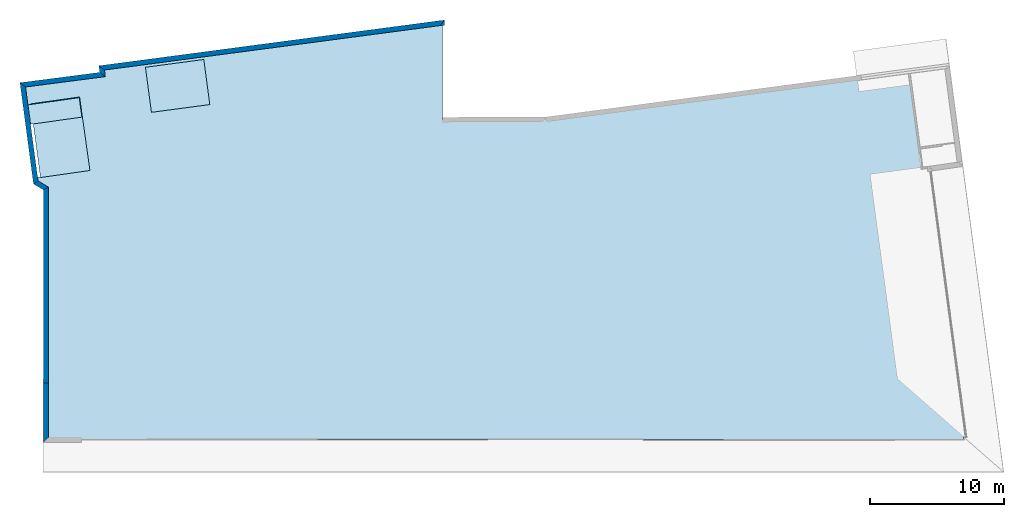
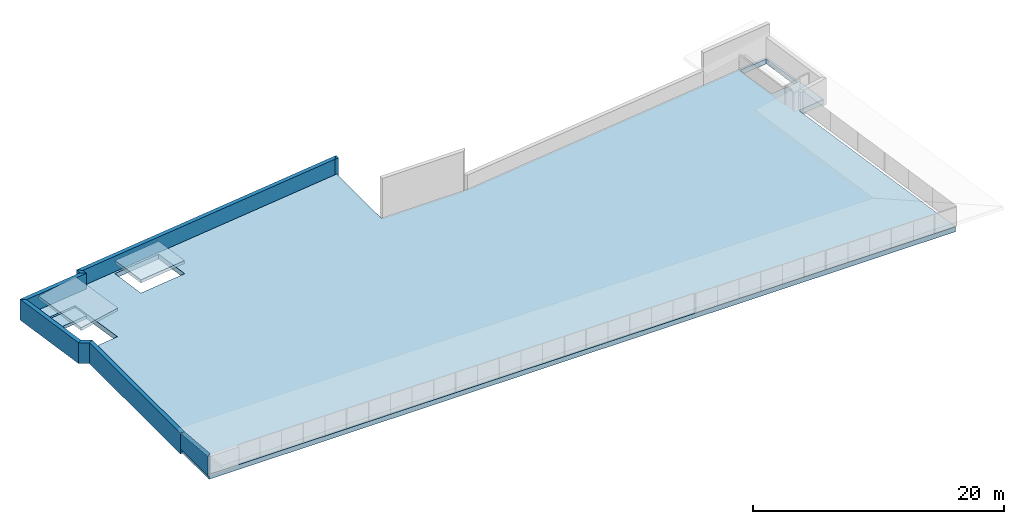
# One storey, part 1 of 7: 8 walls, 4 slabs, 3 openings.
"""IFC2X3 building model written with IfcOpenShell, lengths in metres."""

from ifc_helpers import new_model, entity, si_unit, converted_unit, money_unit, direction, frame, origin_with_axes, place, context, subcontext, project, spatial, polyline, outline, extrude, clip, bounded_halfspace, material, layer, layer_set, layer_usage, type_object, element, save


model = new_model("IFC2X3")

# Units and contexts
model_context = context("Model", 3, precision=1e-05, world=origin_with_axes(), true_north=direction((0.0, 1.0)))
body_context = subcontext(model_context, "Body", "Model", "MODEL_VIEW")
ifc_project = project(units=[si_unit("LENGTHUNIT", "METRE"), si_unit("AREAUNIT", "SQUARE_METRE"), si_unit("VOLUMEUNIT", "CUBIC_METRE"), converted_unit("PLANEANGLEUNIT", "DEGREE", entity("IfcPlaneAngleMeasure", 0.0174532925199), si_unit("PLANEANGLEUNIT", "RADIAN"), dimensions=[0, 0, 0, 0, 0, 0, 0]), si_unit("SOLIDANGLEUNIT", "STERADIAN"), money_unit("EUR"), converted_unit("TIMEUNIT", "Year", entity("IfcTimeMeasure", 31556926.0), si_unit("TIMEUNIT", "SECOND"), dimensions=[0, 0, 0, 0, 0, 0, 0]), si_unit("MASSUNIT", "GRAM"), si_unit("THERMODYNAMICTEMPERATUREUNIT", "DEGREE_CELSIUS"), si_unit("LUMINOUSINTENSITYUNIT", "LUMEN")], contexts=[model_context])

# Site, building, storey
site_placement = place(None, origin_with_axes())
site = spatial("IfcSite", under=ifc_project, at=site_placement, Name="Undefined", CompositionType="ELEMENT")
building_placement = place(site_placement, origin_with_axes())
building = spatial("IfcBuilding", under=site, at=building_placement, Name="Undefined", CompositionType="ELEMENT")
storey_placement = place(building_placement, frame((0.0, 0.0, 17.4), z_axis=(0.0, 0.0, 1.0), x_axis=(1.0, 0.0, 0.0)))
storey = spatial("IfcBuildingStorey", under=building, at=storey_placement, Name="Toiture", CompositionType="ELEMENT", Elevation=17.4)

# Slab
ifc_material_1 = material(Name="Struct. - B\x8eton cellulaire")
ifc_layer_1 = layer(ifc_material_1, 0.3, ventilated="UNKNOWN")
ifc_layer_set_1 = layer_set([ifc_layer_1], Name="Struct. - B\x8eton cellulaire 0.3")
ifc_layer_usage_1 = layer_usage(ifc_layer_set_1, "AXIS3", "NEGATIVE", 0.3)
slab_type_1 = type_object("IfcSlabType", Name="Struct. - B\x8eton cellulaire 300", PredefinedType="FLOOR")
slab_1_placement = place(storey_placement, frame((7.25119225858, 27.6117107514, 1.0), z_axis=(0.0, 0.0, 1.0), x_axis=(1.0, 0.0, 0.0)))
element("IfcSlab", 1, at=slab_1_placement, inside=storey, type_object=slab_type_1, material=ifc_layer_usage_1, Name="SLAB", ObjectType="200*30749", PredefinedType="FLOOR", context=body_context, shape_type="SweptSolid", body=[
    extrude(outline(polyline([(0.0, 0.0), (0.449671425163, -3.37013287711), (4.81101985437, -2.78820515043), (4.3613484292, 0.581927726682), (0.0, 0.0)])), origin_with_axes(), (0.0, 0.0, 1.0), 0.3),
])

# Slab, openings
ifc_material_2 = material(Name="Env. - Gravier")
ifc_layer_2 = layer(ifc_material_2, 0.1, ventilated="UNKNOWN")
ifc_material_3 = material(Name="Etanch\x8eit\x8e - Fondation")
ifc_layer_3 = layer(ifc_material_3, 0.005, ventilated="UNKNOWN")
ifc_material_4 = material(Name="Isolation Int. - Polyur\x8ethane")
ifc_layer_4 = layer(ifc_material_4, 0.16, ventilated="UNKNOWN")
ifc_material_5 = material(Name="Struct. - B.A. coul\x8e")
ifc_layer_5 = layer(ifc_material_5, 0.2, ventilated="UNKNOWN")
ifc_material_6 = material(Name="Finition int - Enduit pl\x89tre")
ifc_layer_6 = layer(ifc_material_6, 0.01, ventilated="UNKNOWN")
ifc_layer_set_2 = layer_set([ifc_layer_2, ifc_layer_3, ifc_layer_4, ifc_layer_5, ifc_layer_6], Name="7.5-Terrasse: B\x8eton + \x8etanch. + isol + gravier")
ifc_layer_usage_2 = layer_usage(ifc_layer_set_2, "AXIS3", "NEGATIVE", 0.475)
slab_type_2 = type_object("IfcSlabType", Name="200*28424", PredefinedType="NOTDEFINED")
slab_2_placement = place(storey_placement, frame((-1.93106549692, 26.3060488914, 0.025), z_axis=(0.0, 0.0, 1.0), x_axis=(1.0, 0.0, 0.0)))
slab_2 = element("IfcSlab", 2, at=slab_2_placement, inside=storey, type_object=slab_type_2, material=ifc_layer_usage_2, Name="SLAB", ObjectType="200*30749", PredefinedType="FLOOR", context=body_context, shape_type="SweptSolid", body=[
    extrude(outline(polyline([(0.0, 0.0), (0.975686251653, -7.31239883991), (1.73606549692, -7.76460232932), (1.73606549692, -26.5684768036), (70.3609509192, -26.5138029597), (67.6237696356, -6.31905179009), (67.9959923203, -6.26534502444), (67.9957745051, -6.26383542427), (70.0856348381, -5.96229646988), (69.1108208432, 1.39871776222), (39.2544348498, -2.56877334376), (31.3762609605, -2.61090102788), (31.3762609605, 4.66629999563), (5.899068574, 1.26691680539), (5.96519698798, 0.771309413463), (0.0, 0.0)])), frame((0.0, 0.0, -0.475), z_axis=(0.0, 0.0, 1.0), x_axis=(1.0, 0.0, 0.0)), (0.0, 0.0, 1.0), 0.475),
])
opening_1_placement = place(slab_2_placement, origin_with_axes())
element("IfcOpeningElement", 3, at=opening_1_placement, cuts=slab_2, Name="Slab Opening", context=body_context, shape_type="SweptSolid", body=[
    extrude(outline(polyline([(1.10167673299, -6.91985936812), (4.98785969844, -6.37369150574), (4.22803964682, -0.967295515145), (0.397624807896, -1.50562567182), (1.10167673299, -6.91985936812)])), frame((0.0, 0.0, -0.475), z_axis=(0.0, 0.0, 1.0), x_axis=(1.0, 0.0, 0.0)), (0.0, 0.0, 1.0), 0.475),
])
opening_2_placement = place(slab_2_placement, origin_with_axes())
element("IfcOpeningElement", 4, at=opening_2_placement, cuts=slab_2, Name="Slab Opening", context=body_context, shape_type="SweptSolid", body=[
    extrude(outline(polyline([(9.1822577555, 1.30566185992), (9.63192918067, -2.06447101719), (13.9932776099, -1.48254329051), (13.5436061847, 1.8875895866), (9.1822577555, 1.30566185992)])), frame((0.0, 0.0, -0.475), z_axis=(0.0, 0.0, 1.0), x_axis=(1.0, 0.0, 0.0)), (0.0, 0.0, 1.0), 0.475),
])
opening_3_placement = place(slab_2_placement, origin_with_axes())
element("IfcOpeningElement", 5, at=opening_3_placement, cuts=slab_2, Name="Slab Opening", context=body_context, shape_type="SweptSolid", body=[
    extrude(outline(polyline([(66.904922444, -3.19686449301), (69.4830926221, -2.86065245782), (68.9431202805, 1.17971854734), (66.3409550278, 0.833927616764), (66.904922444, -3.19686449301)])), frame((0.0, 0.0, -0.475), z_axis=(0.0, 0.0, 1.0), x_axis=(1.0, 0.0, 0.0)), (0.0, 0.0, 1.0), 0.475),
])

# Slabs
ifc_material_7 = material(Name="Air Space 327273935")
ifc_layer_7 = layer(ifc_material_7, 0.03, ventilated="UNKNOWN")
ifc_material_8 = material(Name="Insulation 335336044")
ifc_layer_8 = layer(ifc_material_8, 0.04, ventilated="UNKNOWN")
ifc_material_9 = material(Name="Foreground 335336044")
ifc_layer_9 = layer(ifc_material_9, 0.001, ventilated="UNKNOWN")
ifc_material_10 = material(Name="Wood 335336044")
ifc_layer_10 = layer(ifc_material_10, 0.02, ventilated="UNKNOWN")
ifc_material_11 = material(Name="Air Space 355482495")
ifc_layer_11 = layer(ifc_material_11, 0.18, ventilated="UNKNOWN")
ifc_layer_set_3 = layer_set([ifc_layer_7, ifc_layer_8, ifc_layer_9, ifc_layer_10, ifc_layer_11], Name="roof, aluminium 0259058706")
ifc_layer_usage_3 = layer_usage(ifc_layer_set_3, "AXIS3", "NEGATIVE", 0.271)
slab_type_3 = type_object("IfcSlabType", Name="roof, aluminium 0259058706 271", PredefinedType="ROOF")
slab_3_placement = place(storey_placement, frame((-1.59807508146, 24.9392908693, 2.2114084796), z_axis=(0.0, 0.0, 1.0), x_axis=(0.136065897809, -0.990699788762, 0.0)))
element("IfcSlab", 6, at=slab_3_placement, inside=storey, type_object=slab_type_3, material=ifc_layer_usage_3, Name="Roof01", PredefinedType="ROOF", context=body_context, shape_type="SweptSolid", body=[
    extrude(outline(polyline([(0.0992106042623, 0.252744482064), (5.65426393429, 0.229904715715), (5.63773414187, 3.98364101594), (0.0876110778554, 3.96616276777), (0.0992106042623, 0.252744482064)])), frame((0.0, 0.0, 0.0), z_axis=(0.0, -0.0871557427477, 0.996194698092), x_axis=(1.0, 0.0, 0.0)), (0.0, 0.0871557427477, 0.996194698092), 0.272035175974),
])
ifc_material_12 = material(Name="Struct. - Chape")
ifc_layer_12 = layer(ifc_material_12, 0.06, ventilated="UNKNOWN")
ifc_layer_13 = layer(ifc_material_4, 0.06, ventilated="UNKNOWN")
ifc_layer_14 = layer(ifc_material_5, 0.18, ventilated="UNKNOWN")
ifc_layer_set_4 = layer_set([ifc_layer_12, ifc_layer_13, ifc_layer_14], Name="5.0-Dalle & Chape (Simplifi\x8e)")
ifc_layer_usage_4 = layer_usage(ifc_layer_set_4, "AXIS3", "NEGATIVE", 0.3)
slab_type_4 = type_object("IfcSlabType", Name="5.0-Dalle & Chape (Simplifi\x8e) 300", PredefinedType="FLOOR")
slab_4_placement = place(storey_placement, frame((-1.53344068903, 24.8004232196, -0.14), z_axis=(0.0, 0.0, 1.0), x_axis=(1.0, 0.0, 0.0)))
element("IfcSlab", 7, at=slab_4_placement, inside=storey, type_object=slab_type_4, material=ifc_layer_usage_4, Name="SLAB", ObjectType="200*30749", PredefinedType="FLOOR", context=body_context, shape_type="SweptSolid", body=[
    extrude(outline(polyline([(0.0, 0.0), (0.204226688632, -1.45314716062), (4.03464152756, -0.914817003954), (3.83041483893, 0.53833015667), (0.0, 0.0)])), frame((0.0, 0.0, -0.3), z_axis=(0.0, 0.0, 1.0), x_axis=(1.0, 0.0, 0.0)), (0.0, 0.0, 1.0), 0.3),
])

# Walls
ifc_material_13 = material(Name="Finition ext - Cr\x8epis")
ifc_layer_15 = layer(ifc_material_13, 0.015, ventilated="UNKNOWN")
ifc_material_14 = material(Name="Isolation - Fibres de bois")
ifc_layer_16 = layer(ifc_material_14, 0.16, ventilated="UNKNOWN")
ifc_material_15 = material(Name="Struct. - B.A. banch\x8e")
ifc_layer_17 = layer(ifc_material_15, 0.18, ventilated="UNKNOWN")
ifc_layer_18 = layer(ifc_material_6, 0.015, ventilated="UNKNOWN")
ifc_layer_set_5 = layer_set([ifc_layer_15, ifc_layer_16, ifc_layer_17, ifc_layer_18], Name="1.2-Mur ext: rev\x8et ext + isol ext + ma\x8donnerie + enduit")
ifc_layer_usage_5 = layer_usage(ifc_layer_set_5, "AXIS2", "POSITIVE", 0.0)
wall_type = type_object("IfcWallType", Name="1.2-Mur ext: rev\x8et ext + isol ext + ma\x8donnerie + enduit 370", PredefinedType="NOTDEFINED")
wall_1_placement = place(storey_placement, frame((-0.37, 3.99235607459, 0.0), z_axis=(0.0, 0.0, 1.0), x_axis=(0.0, -1.0, 0.0)))
element("IfcWallStandardCase", 8, at=wall_1_placement, inside=storey, type_object=wall_type, material=ifc_layer_usage_5, Name="WallEx_09", ObjectType="WALL", context=body_context, shape_type="Clipping", body=[
    clip(clip(clip(clip(extrude(outline(polyline([(0.0, 0.0), (4.42995601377, 0.0), (4.05959054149, 0.37), (0.0, 0.37), (0.0, 0.0)])), origin_with_axes(), (0.0, 0.0, 1.0), 3.302), bounded_halfspace(frame((0.000267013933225, 0.0, 1.52987712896), z_axis=(-0.000174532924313, 0.0, -0.999999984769), x_axis=(0.0, 1.0, 0.0)), True, origin_with_axes(), polyline([(-22.6191009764, -0.01), (0.0118085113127, -0.01), (0.0118085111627, 0.38), (-22.6191009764, 0.38), (-22.6191009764, -0.01)]))), bounded_halfspace(frame((0.000267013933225, 0.0, 1.52987712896), z_axis=(-0.000174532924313, 0.0, -0.999999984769), x_axis=(0.0, 1.0, 0.0)), True, origin_with_axes(), polyline([(-22.6191009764, -0.01), (0.0118085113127, -0.01), (0.0118085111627, 0.38), (-22.6191009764, 0.38), (-22.6191009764, -0.01)]))), bounded_halfspace(frame((-0.132740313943, 0.0, 1.51722873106), z_axis=(0.0871557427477, 0.0, -0.996194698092), x_axis=(0.0, 1.0, 0.0)), True, origin_with_axes(), polyline([(0.0118085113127, -0.01), (6.66598421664, -0.01), (6.66598421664, 0.38), (0.0118085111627, 0.38), (0.0118085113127, -0.01)]))), bounded_halfspace(frame((-0.132740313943, 0.0, 1.51722873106), z_axis=(0.0871557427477, 0.0, -0.996194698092), x_axis=(0.0, 1.0, 0.0)), True, origin_with_axes(), polyline([(0.0118085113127, -0.01), (6.66598421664, -0.01), (6.66598421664, 0.38), (0.0118085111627, 0.38), (0.0118085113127, -0.01)]))),
])
ifc_layer_usage_6 = layer_usage(ifc_layer_set_5, "AXIS2", "POSITIVE", 0.0)
wall_2_placement = place(storey_placement, frame((29.6202598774, 31.1461094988, -0.5), z_axis=(0.0, 0.0, 1.0), x_axis=(-0.991347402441, -0.131264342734, 0.0)))
element("IfcWallStandardCase", 9, at=wall_2_placement, inside=storey, type_object=wall_type, material=ifc_layer_usage_6, Name="WallEx_09", ObjectType="WALL", context=body_context, shape_type="SweptSolid", body=[
    extrude(outline(polyline([(0.0, 0.0), (26.0743044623, 0.0), (25.7039348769, 0.37), (0.417235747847, 0.37), (0.0, 0.0)])), origin_with_axes(), (0.0, 0.0, 1.0), 2.03113952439),
])
ifc_layer_usage_7 = layer_usage(ifc_layer_set_5, "AXIS2", "POSITIVE", 0.0)
wall_3_placement = place(storey_placement, frame((3.77156587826, 27.7234830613, -0.5), z_axis=(0.0, 0.0, 1.0), x_axis=(0.132254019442, -0.991215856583, 0.0)))
element("IfcWallStandardCase", 10, at=wall_3_placement, inside=storey, type_object=wall_type, material=ifc_layer_usage_7, Name="WallEx02", ObjectType="WALL", context=body_context, shape_type="SweptSolid", body=[
    extrude(outline(polyline([(0.0, 0.0), (0.498901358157, 0.0), (0.87036876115, 0.37), (0.37036958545, 0.37), (0.0, 0.0)])), origin_with_axes(), (0.0, 0.0, 1.0), 2.0311),
])
ifc_layer_usage_8 = layer_usage(ifc_layer_set_5, "AXIS2", "POSITIVE", 0.0)
wall_4_placement = place(storey_placement, frame((3.83754758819, 27.2289641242, -0.5), z_axis=(0.0, 0.0, 1.0), x_axis=(-0.991731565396, -0.128329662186, 0.0)))
element("IfcWallStandardCase", 11, at=wall_4_placement, inside=storey, type_object=wall_type, material=ifc_layer_usage_8, Name="WallEx_09", ObjectType="WALL", context=body_context, shape_type="SweptSolid", body=[
    extrude(outline(polyline([(0.0, 0.0), (6.01504764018, 0.0), (5.6435791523, 0.37), (-0.371467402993, 0.37), (0.0, 0.0)])), origin_with_axes(), (0.0, 0.0, 1.0), 2.0311),
])
ifc_layer_usage_9 = layer_usage(ifc_layer_set_5, "AXIS2", "POSITIVE", 0.0)
wall_5_placement = place(storey_placement, frame((-1.11763836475, 18.886538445, -0.5), z_axis=(0.0, 0.0, 1.0), x_axis=(0.859493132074, -0.51114729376, 0.0)))
element("IfcWallStandardCase", 12, at=wall_5_placement, inside=storey, type_object=wall_type, material=ifc_layer_usage_9, Name="WallEx", ObjectType="WALL", context=body_context, shape_type="SweptSolid", body=[
    extrude(outline(polyline([(0.0, 0.0), (0.869859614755, 0.0), (1.0803039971, 0.37), (0.179102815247, 0.37), (0.0, 0.0)])), origin_with_axes(), (0.0, 0.0, 1.0), 2.03113952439),
])
ifc_layer_usage_10 = layer_usage(ifc_layer_set_5, "AXIS2", "POSITIVE", 0.0)
wall_6_placement = place(storey_placement, frame((-0.37, 18.441912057, -0.5), z_axis=(0.0, 0.0, 1.0), x_axis=(0.0, -1.0, 0.0)))
element("IfcWallStandardCase", 13, at=wall_6_placement, inside=storey, type_object=wall_type, material=ifc_layer_usage_10, Name="WallEx_09", ObjectType="WALL", context=body_context, shape_type="SweptSolid", body=[
    extrude(outline(polyline([(0.0, 0.0), (14.4495559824, 0.0), (14.4495559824, 0.37), (-0.210444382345, 0.37), (0.0, 0.0)])), origin_with_axes(), (0.0, 0.0, 1.0), 2.03113952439),
])
ifc_layer_usage_11 = layer_usage(ifc_layer_set_5, "AXIS2", "POSITIVE", 0.0)
wall_7_placement = place(storey_placement, frame((-2.12776502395, 26.4570550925, -0.5), z_axis=(0.0, 0.0, 1.0), x_axis=(0.132256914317, -0.991215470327, 0.0)))
element("IfcWallStandardCase", 14, at=wall_7_placement, inside=storey, type_object=wall_type, material=ifc_layer_usage_11, Name="WallEx_09", ObjectType="WALL", context=body_context, shape_type="SweptSolid", body=[
    extrude(outline(polyline([(0.0, 0.0), (7.63760945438, 0.0), (7.45850663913, 0.37), (0.371468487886, 0.37), (0.0, 0.0)])), origin_with_axes(), (0.0, 0.0, 1.0), 2.03113952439),
])
ifc_layer_usage_12 = layer_usage(ifc_layer_set_5, "AXIS2", "NEGATIVE", 0.0)
wall_8_placement = place(storey_placement, frame((29.6202598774, 31.1461094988, -0.5), z_axis=(0.0, 0.0, 1.0), x_axis=(0.0117836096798, -0.999930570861, 0.0)))
element("IfcWallStandardCase", 15, at=wall_8_placement, inside=storey, type_object=wall_type, material=ifc_layer_usage_12, Name="WallEx_09", ObjectType="WALL", context=body_context, shape_type="SweptSolid", body=[
    extrude(outline(polyline([(0.417235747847, -0.37), (0.39494265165, -0.37), (0.39494265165, 0.0), (0.0, 0.0), (0.417235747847, -0.37)])), origin_with_axes(), (0.0, 0.0, 1.0), 2.03113952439),
])

save(model, "model.ifc")
